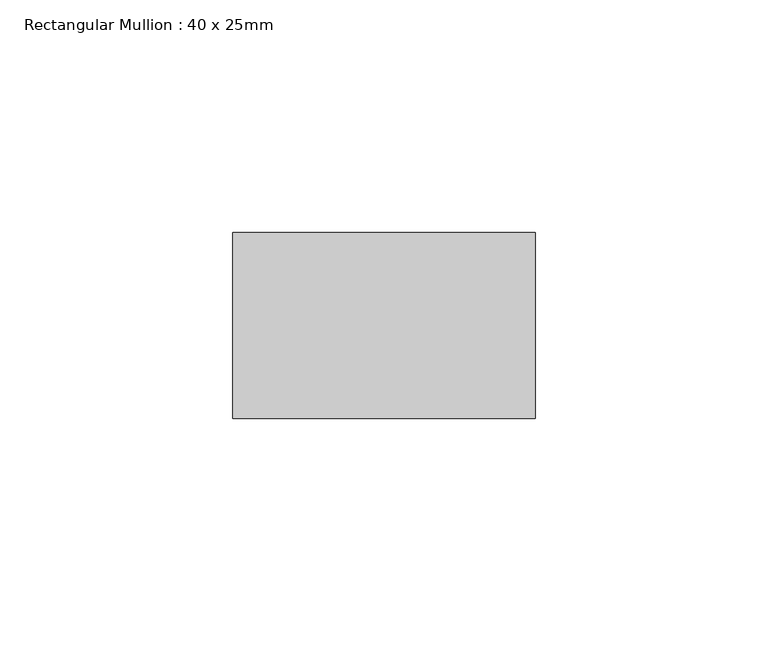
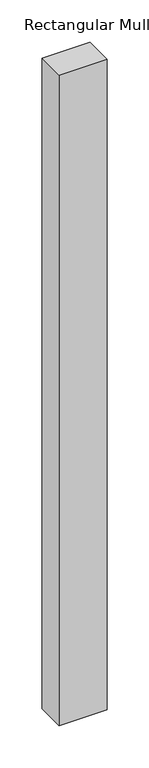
"""IFC4 building model written with IfcOpenShell, lengths in millimetres: member geometry, Rectangular Mullion : 40 x 25mm."""

from ifc_helpers import new_model, si_unit, frame, origin, place, context, project, spatial, polyline, outline, extrude, source, transform, mapped, element, save


def rectangular_mullion_40_x_25mm_c01fb415(model_context):
    return source(origin(), model_context, "Body", "SweptSolid", [
        extrude(outline(polyline([(0.0, -20.0), (0.0, -60.0), (-65.0, -60.0), (-65.0, -20.0), (0.0, -20.0)])), frame((0.0, 0.0, -936.6333333), z_axis=(0.0, 0.0, 1.0), x_axis=(1.0, 0.0, 0.0)), (0.0, 0.0, 1.0), 936.6333333),
    ])


if __name__ == "__main__":
    model = new_model("IFC4")
    model_context = context("Model", 3, world=origin())
    ifc_project = project(units=[si_unit("LENGTHUNIT", "METRE", prefix="MILLI")], contexts=[model_context])
    site = spatial("IfcSite", under=ifc_project)
    building = spatial("IfcBuilding", under=site)
    placement = place(None, origin())
    rectangular_mullion_40_x_25mm_shape = rectangular_mullion_40_x_25mm_c01fb415(model_context)
    element("IfcMember", 1, ObjectType="Rectangular Mullion : 40 x 25mm", at=placement, inside=building, context=model_context, shape_type="MappedRepresentation", body=[
        mapped(rectangular_mullion_40_x_25mm_shape, transform((0.0, 0.0, 0.0), x_axis=(1.0, 0.0, 0.0), y_axis=(0.0, 1.0, 0.0), z_axis=(0.0, 0.0, 1.0))),
    ])
    save(model, "model.ifc")
